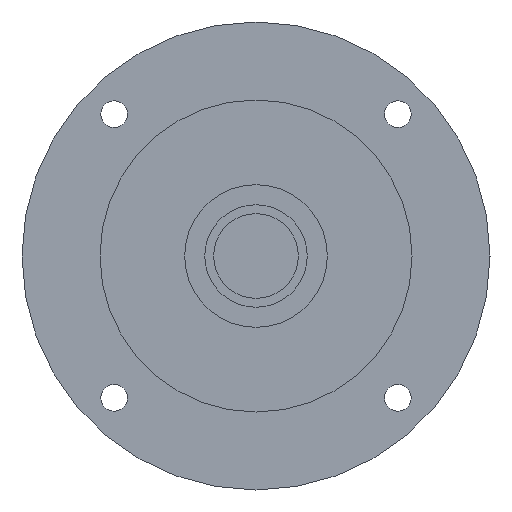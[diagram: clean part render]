
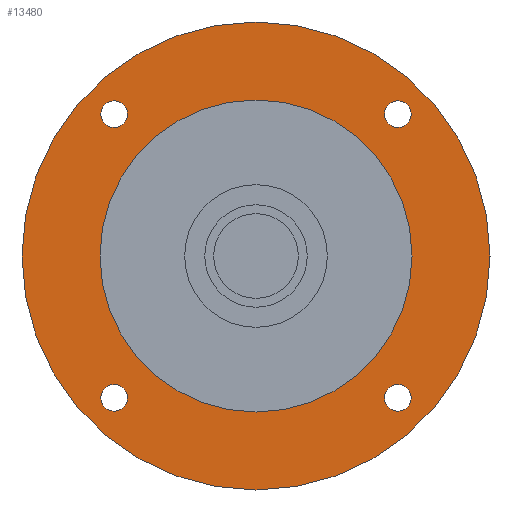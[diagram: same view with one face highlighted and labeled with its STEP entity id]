
A CAD part, left-side view. The second image highlights one B-rep face of the part: STEP entity #13480.
In plain terms, the highlighted planar face has unit normal (-1, 0, 0) as drawn and (0, 0, -1) by its records, which use the part's own axes.
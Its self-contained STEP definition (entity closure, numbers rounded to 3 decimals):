
#12320=CARTESIAN_POINT('',(-31.82,-28.82,-49.2));
#12330=VERTEX_POINT('',#12320);
#12360=CARTESIAN_POINT('',(-31.82,-31.82,-49.2));
#12370=DIRECTION('',(0.,0.,-1.));
#12380=DIRECTION('',(0.,-1.,0.));
#12390=AXIS2_PLACEMENT_3D('',#12360,#12370,#12380);
#12400=CIRCLE('',#12390,3.);
#12410=CARTESIAN_POINT('',(-31.82,-34.82,-49.2));
#12420=VERTEX_POINT('',#12410);
#12430=EDGE_CURVE('',#12420,#12330,#12400,.T.);
#12550=CARTESIAN_POINT('',(0.,0.,
-49.2));
#12560=DIRECTION('',(0.,0.,-1.));
#12570=DIRECTION('',(1.,0.,0.));
#12580=AXIS2_PLACEMENT_3D('',#12550,#12560,#12570);
#12590=PLANE('',#12580);
#12600=CARTESIAN_POINT('',(31.82,-31.82,-49.2));
#12610=DIRECTION('',(0.,0.,-1.));
#12620=DIRECTION('',(1.,0.,0.));
#12630=AXIS2_PLACEMENT_3D('',#12600,#12610,#12620);
#12640=CIRCLE('',#12630,3.);
#12650=CARTESIAN_POINT('',(34.82,-31.82,-49.2));
#12660=VERTEX_POINT('',#12650);
#12670=CARTESIAN_POINT('',(28.82,-31.82,-49.2));
#12680=VERTEX_POINT('',#12670);
#12690=EDGE_CURVE('',#12660,#12680,#12640,.T.);
#12700=ORIENTED_EDGE('',*,*,#12690,.F.);
#12710=EDGE_CURVE('',#12680,#12660,#12640,.T.);
#12720=ORIENTED_EDGE('',*,*,#12710,.F.);
#12730=EDGE_LOOP('',(#12720,#12700));
#12740=FACE_BOUND('',#12730,.T.);
#12750=CARTESIAN_POINT('',(0.,0.,
-49.2));
#12760=DIRECTION('',(0.,0.,-1.));
#12770=DIRECTION('',(0.,-1.,0.));
#12780=AXIS2_PLACEMENT_3D('',#12750,#12760,#12770);
#12790=CIRCLE('',#12780,52.5);
#12800=CARTESIAN_POINT('',(-52.5,0.,-49.2));
#12810=VERTEX_POINT('',#12800);
#12820=CARTESIAN_POINT('',(52.5,0.,-49.2));
#12830=VERTEX_POINT('',#12820);
#12840=EDGE_CURVE('',#12810,#12830,#12790,.T.);
#12850=ORIENTED_EDGE('',*,*,#12840,.T.);
#12860=CARTESIAN_POINT('',(0.,-52.5,-49.2));
#12870=VERTEX_POINT('',#12860);
#12880=EDGE_CURVE('',#12870,#12810,#12790,.T.);
#12890=ORIENTED_EDGE('',*,*,#12880,.T.);
#12900=EDGE_CURVE('',#12830,#12870,#12790,.T.);
#12910=ORIENTED_EDGE('',*,*,#12900,.T.);
#12920=EDGE_LOOP('',(#12910,#12890,#12850));
#12930=FACE_OUTER_BOUND('',#12920,.T.);
#12940=CARTESIAN_POINT('',(31.82,31.82,-49.2));
#12950=DIRECTION('',(0.,0.,-1.));
#12960=DIRECTION('',(0.,1.,0.));
#12970=AXIS2_PLACEMENT_3D('',#12940,#12950,#12960);
#12980=CIRCLE('',#12970,3.);
#12990=CARTESIAN_POINT('',(31.82,34.82,-49.2));
#13000=VERTEX_POINT('',#12990);
#13010=CARTESIAN_POINT('',(31.82,28.82,-49.2));
#13020=VERTEX_POINT('',#13010);
#13030=EDGE_CURVE('',#13000,#13020,#12980,.T.);
#13040=ORIENTED_EDGE('',*,*,#13030,.F.);
#13050=EDGE_CURVE('',#13020,#13000,#12980,.T.);
#13060=ORIENTED_EDGE('',*,*,#13050,.F.);
#13070=EDGE_LOOP('',(#13060,#13040));
#13080=FACE_BOUND('',#13070,.T.);
#13090=CARTESIAN_POINT('',(-31.82,31.82,-49.2));
#13100=DIRECTION('',(0.,0.,-1.));
#13110=DIRECTION('',(-1.,0.,0.));
#13120=AXIS2_PLACEMENT_3D('',#13090,#13100,#13110);
#13130=CIRCLE('',#13120,3.);
#13140=CARTESIAN_POINT('',(-34.82,31.82,-49.2));
#13150=VERTEX_POINT('',#13140);
#13160=CARTESIAN_POINT('',(-28.82,31.82,-49.2));
#13170=VERTEX_POINT('',#13160);
#13180=EDGE_CURVE('',#13150,#13170,#13130,.T.);
#13190=ORIENTED_EDGE('',*,*,#13180,.F.);
#13200=EDGE_CURVE('',#13170,#13150,#13130,.T.);
#13210=ORIENTED_EDGE('',*,*,#13200,.F.);
#13220=EDGE_LOOP('',(#13210,#13190));
#13230=FACE_BOUND('',#13220,.T.);
#13240=ORIENTED_EDGE('',*,*,#12430,.F.);
#13250=EDGE_CURVE('',#12330,#12420,#12400,.T.);
#13260=ORIENTED_EDGE('',*,*,#13250,.F.);
#13270=EDGE_LOOP('',(#13260,#13240));
#13280=FACE_BOUND('',#13270,.T.);
#13290=CARTESIAN_POINT('',(0.,0.,
-49.2));
#13300=DIRECTION('',(0.,0.,1.));
#13310=DIRECTION('',(0.,1.,0.));
#13320=AXIS2_PLACEMENT_3D('',#13290,#13300,#13310);
#13330=CIRCLE('',#13320,35.);
#13340=CARTESIAN_POINT('',(-35.,0.,-49.2));
#13350=VERTEX_POINT('',#13340);
#13360=CARTESIAN_POINT('',(35.,0.,-49.2));
#13370=VERTEX_POINT('',#13360);
#13380=EDGE_CURVE('',#13350,#13370,#13330,.T.);
#13390=ORIENTED_EDGE('',*,*,#13380,.T.);
#13400=CARTESIAN_POINT('',(0.,35.,-49.2));
#13410=VERTEX_POINT('',#13400);
#13420=EDGE_CURVE('',#13410,#13350,#13330,.T.);
#13430=ORIENTED_EDGE('',*,*,#13420,.T.);
#13440=EDGE_CURVE('',#13370,#13410,#13330,.T.);
#13450=ORIENTED_EDGE('',*,*,#13440,.T.);
#13460=EDGE_LOOP('',(#13450,#13430,#13390));
#13470=FACE_BOUND('',#13460,.T.);
#13480=ADVANCED_FACE('',(#12740,#12930,#13080,#13230,#13280,#13470),
#12590,.T.);
